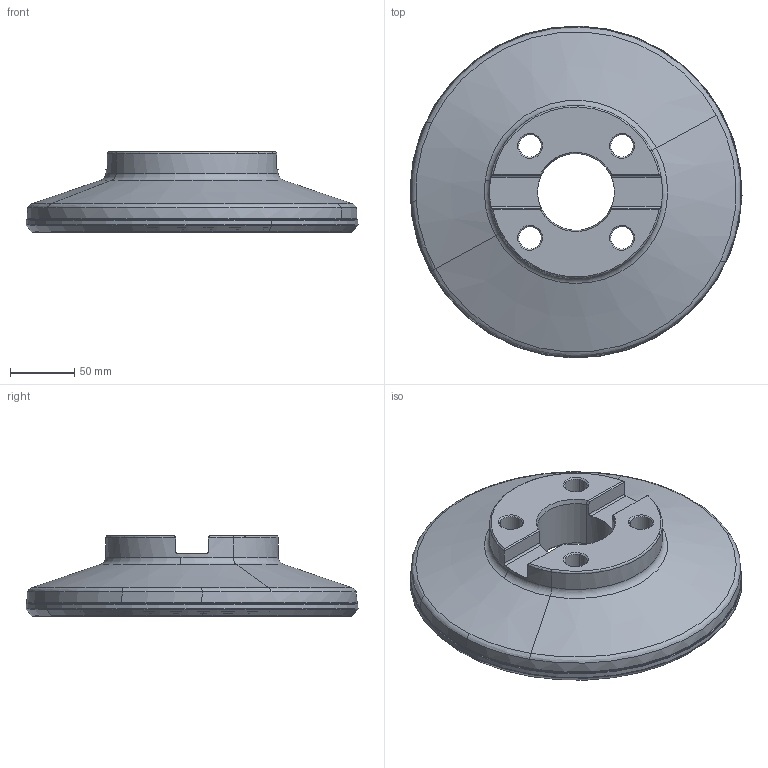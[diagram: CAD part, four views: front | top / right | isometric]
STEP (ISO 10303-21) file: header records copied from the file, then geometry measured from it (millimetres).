
FILE_DESCRIPTION(('CATIA V5 STEP'),'2;1');
FILE_NAME('N:\data\isr\design\special1\users\NATALY_B\Tal\NPA\3107003\IQ845 FSY D250-17-60-R07-L.stp','2014-04-10T14:42:01+00:00',('none'),('none'),'CATIA Version 5 Release 21 SP 3 (IN-10)','CATIA V5 STEP AP214','none');
FILE_SCHEMA(('AUTOMOTIVE_DESIGN { 1 0 10303 214 1 1 1 1 }'));
Length unit declared in the file: millimetre
Products named in the file (1): IQ845 FSY D250-17-60-R07
Bounding box: 259.27 x 259.27 x 63 mm (x, y, z)
Volume: 1269171.4 mm3; surface area: 180070.8 mm2
Topology: 2 solids, 2 shells, 181 faces, 419 edges, 244 vertices
Faces by surface type: revolution 68, cone 47, torus 24, cylinder 24, plane 18
Entity records: 7127 total; most frequent: CARTESIAN_POINT 2202, ORIENTED_EDGE 838, DIRECTION 608, EDGE_CURVE 419, AXIS2_PLACEMENT_3D 319, VERTEX_POINT 244, CIRCLE 217, EDGE_LOOP 195
